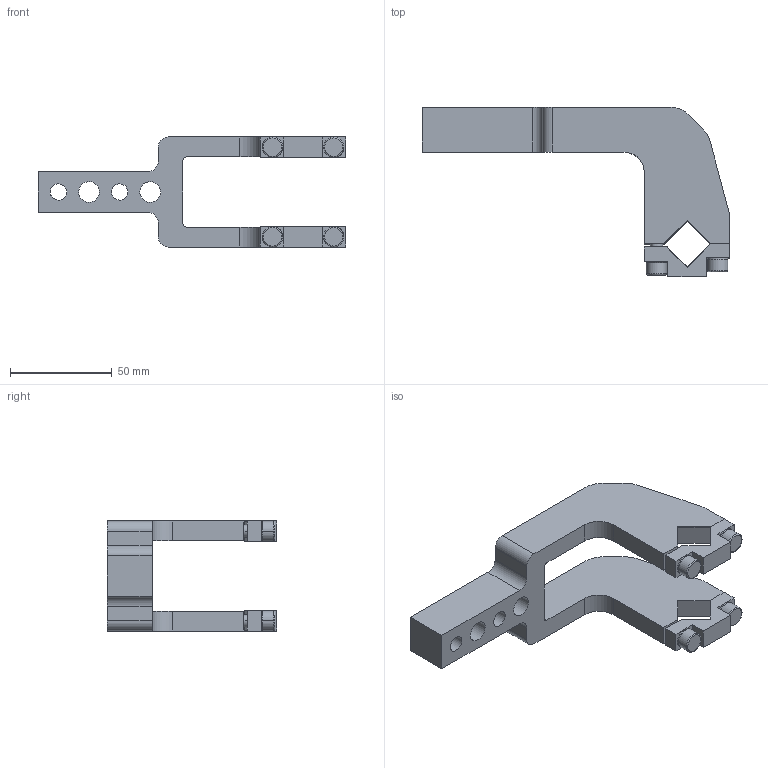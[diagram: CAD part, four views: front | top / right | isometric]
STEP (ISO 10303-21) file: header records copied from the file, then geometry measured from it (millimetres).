
FILE_DESCRIPTION(('CATIA V5 STEP Exchange'),'2;1');
FILE_NAME('E:\clampact\CLAMPACT\clampact\3D\Clampact Arm-3D\Clampact Arm-3D\K40-45-A60-S_Clampact.stp','2024-06-11T09:01:12+00:00',('none'),('none'),'CATIA Version 5 Release 19 SP 6 (IN-10)','CATIA V5 STEP AP203','none');
FILE_SCHEMA(('CONFIG_CONTROL_DESIGN'));
Length unit declared in the file: millimetre
Products named in the file (1): K40-45-A60-S_Clampact
Bounding box: 151 x 83 x 54 mm (x, y, z)
Volume: 103459.4 mm3; surface area: 32800.4 mm2
Topology: 1 solids, 5 shells, 167 faces, 423 edges, 266 vertices
Faces by surface type: plane 78, cylinder 54, cone 23, torus 12
Entity records: 4803 total; most frequent: CARTESIAN_POINT 1019, ORIENTED_EDGE 830, DIRECTION 630, EDGE_CURVE 415, AXIS2_PLACEMENT_3D 267, VERTEX_POINT 266, VECTOR 247, LINE 247
